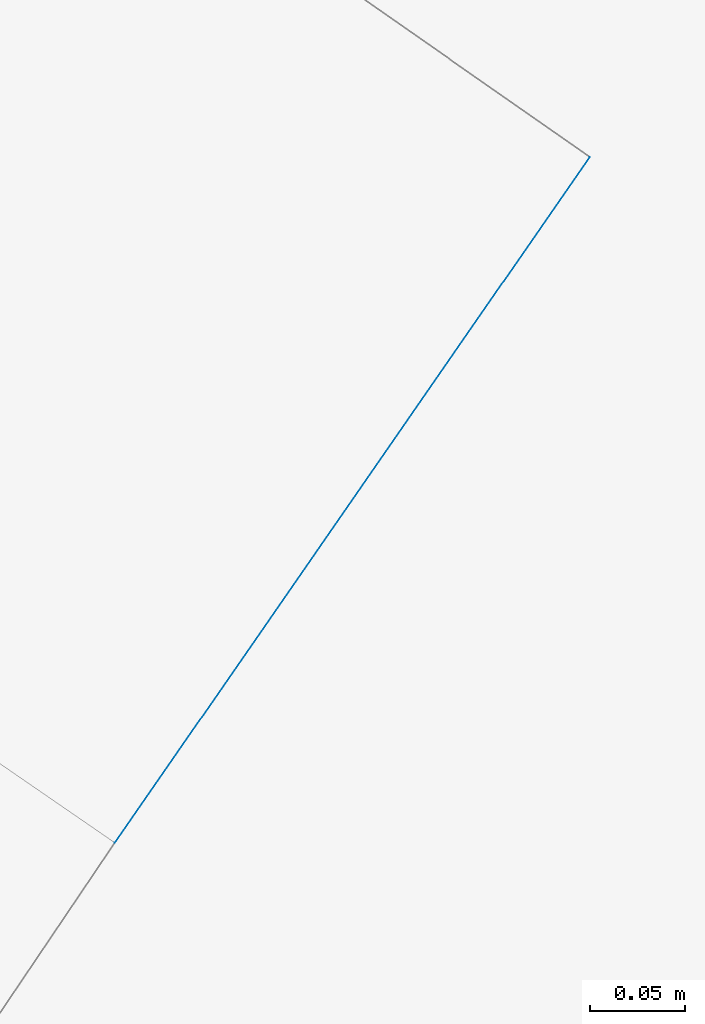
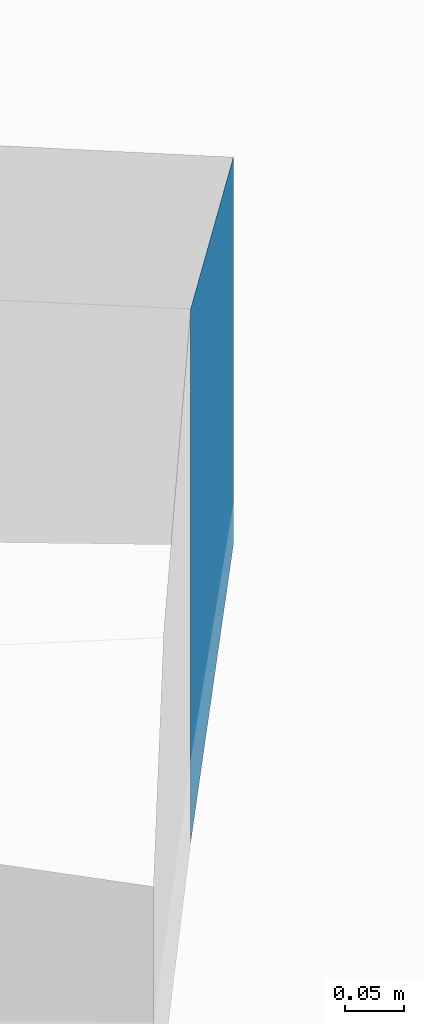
# Not in any storey, part 98 of 136: 1 wall.
"""IFC4 building model written with IfcOpenShell, lengths in metres."""

from ifc_helpers import new_model, entity, si_unit, converted_unit, origin, place, context, subcontext, project, spatial, face_set, surface_model, element, save


model = new_model("IFC4")

# Units and contexts
model_context = context("Model", 3, precision=1e-05, world=origin())
body_context = subcontext(model_context, "Body", "Model", "MODEL_VIEW")
ifc_project = project(units=[converted_unit("PLANEANGLEUNIT", "DEGREE", entity("IfcRatioMeasure", 0.0174532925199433), si_unit("PLANEANGLEUNIT", "RADIAN"), dimensions=[0, 0, 0, 0, 0, 0, 0]), si_unit("AREAUNIT", "SQUARE_METRE"), si_unit("LENGTHUNIT", "METRE")], contexts=[model_context])

# Site, building
site_placement = place(None, origin())
site = spatial("IfcSite", under=ifc_project, at=site_placement, Name="_site")
building_placement = place(site_placement, origin())
building = spatial("IfcBuilding", under=site, at=building_placement, Name="_building")

# Wall
wall_placement = place(building_placement, origin())
element("IfcWall", 1, at=wall_placement, inside=building, Name="Wall", PredefinedType="NOTDEFINED", context=body_context, shape_type="SurfaceModel", body=[
    surface_model("IfcFaceBasedSurfaceModel", [(-29.37, 86.771, 54.18), (-29.62, 86.41, 54.33), (-29.62, 86.41, 53.78), (-29.37, 86.771, 53.78)], [face_set([[[0, 1, 2, 3]]])]),
])

save(model, "model.ifc")
